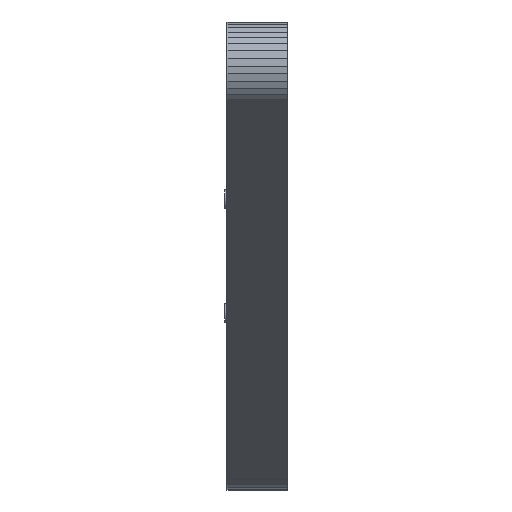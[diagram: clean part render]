
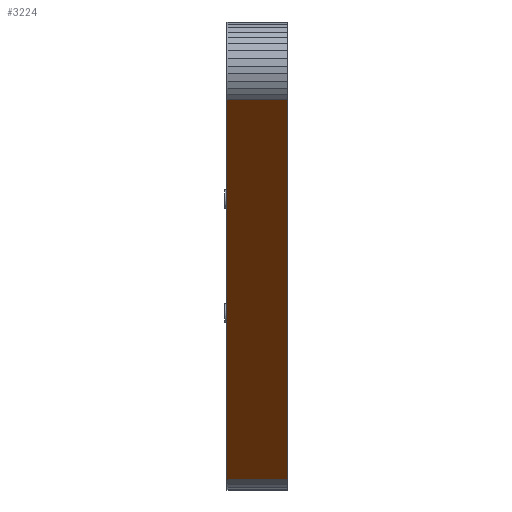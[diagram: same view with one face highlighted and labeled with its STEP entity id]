
A CAD part, top view. The second image highlights one B-rep face of the part: STEP entity #3224.
In plain terms, the highlighted planar face has unit normal (0, -0.796, 0.605).
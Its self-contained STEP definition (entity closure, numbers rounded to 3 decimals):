
#72 = PLANE('',#73);
#73 = AXIS2_PLACEMENT_3D('',#74,#75,#76);
#74 = CARTESIAN_POINT('',(78.,133.337,-4.5));
#75 = DIRECTION('',(1.,0.,0.));
#76 = DIRECTION('',(-0.,0.,1.));
#126 = PLANE('',#127);
#127 = AXIS2_PLACEMENT_3D('',#128,#129,#130);
#128 = CARTESIAN_POINT('',(52.,133.337,-4.5));
#129 = DIRECTION('',(1.,0.,0.));
#130 = DIRECTION('',(-0.,0.,1.));
#1131 = VERTEX_POINT('',#1132);
#1132 = CARTESIAN_POINT('',(52.,200.445,115.213));
#1146 = PLANE('',#1147);
#1147 = AXIS2_PLACEMENT_3D('',#1148,#1149,#1150);
#1148 = CARTESIAN_POINT('',(52.,202.787,117.555));
#1149 = DIRECTION('',(0.,0.707,-0.707));
#1150 = DIRECTION('',(0.,-0.707,-0.707));
#1158 = EDGE_CURVE('',#1131,#1159,#1161,.T.);
#1159 = VERTEX_POINT('',#1160);
#1160 = CARTESIAN_POINT('',(52.,37.12,-99.787));
#1161 = SURFACE_CURVE('',#1162,(#1166,#1173),.PCURVE_S1.);
#1162 = LINE('',#1163,#1164);
#1163 = CARTESIAN_POINT('',(52.,200.445,115.213));
#1164 = VECTOR('',#1165,1.);
#1165 = DIRECTION('',(0.,-0.605,-0.796));
#1166 = PCURVE('',#126,#1167);
#1167 = DEFINITIONAL_REPRESENTATION('',(#1168),#1172);
#1168 = LINE('',#1169,#1170);
#1169 = CARTESIAN_POINT('',(119.713,-67.108));
#1170 = VECTOR('',#1171,1.);
#1171 = DIRECTION('',(-0.796,0.605));
#1172 = ( GEOMETRIC_REPRESENTATION_CONTEXT(2) 
PARAMETRIC_REPRESENTATION_CONTEXT() REPRESENTATION_CONTEXT('2D SPACE',''
  ) );
#1173 = PCURVE('',#1174,#1179);
#1174 = PLANE('',#1175);
#1175 = AXIS2_PLACEMENT_3D('',#1176,#1177,#1178);
#1176 = CARTESIAN_POINT('',(52.,200.445,115.213));
#1177 = DIRECTION('',(0.,0.796,-0.605));
#1178 = DIRECTION('',(0.,-0.605,-0.796));
#1179 = DEFINITIONAL_REPRESENTATION('',(#1180),#1184);
#1180 = LINE('',#1181,#1182);
#1181 = CARTESIAN_POINT('',(0.,0.));
#1182 = VECTOR('',#1183,1.);
#1183 = DIRECTION('',(1.,0.));
#1184 = ( GEOMETRIC_REPRESENTATION_CONTEXT(2) 
PARAMETRIC_REPRESENTATION_CONTEXT() REPRESENTATION_CONTEXT('2D SPACE',''
  ) );
#1202 = PLANE('',#1203);
#1203 = AXIS2_PLACEMENT_3D('',#1204,#1205,#1206);
#1204 = CARTESIAN_POINT('',(52.,37.12,-99.787));
#1205 = DIRECTION('',(0.,0.819,-0.573));
#1206 = DIRECTION('',(0.,-0.573,-0.819));
#2950 = VERTEX_POINT('',#2951);
#2951 = CARTESIAN_POINT('',(78.,200.445,115.213));
#2972 = EDGE_CURVE('',#2950,#2973,#2975,.T.);
#2973 = VERTEX_POINT('',#2974);
#2974 = CARTESIAN_POINT('',(78.,37.12,-99.787));
#2975 = SURFACE_CURVE('',#2976,(#2980,#2987),.PCURVE_S1.);
#2976 = LINE('',#2977,#2978);
#2977 = CARTESIAN_POINT('',(78.,200.445,115.213));
#2978 = VECTOR('',#2979,1.);
#2979 = DIRECTION('',(0.,-0.605,-0.796));
#2980 = PCURVE('',#72,#2981);
#2981 = DEFINITIONAL_REPRESENTATION('',(#2982),#2986);
#2982 = LINE('',#2983,#2984);
#2983 = CARTESIAN_POINT('',(119.713,-67.108));
#2984 = VECTOR('',#2985,1.);
#2985 = DIRECTION('',(-0.796,0.605));
#2986 = ( GEOMETRIC_REPRESENTATION_CONTEXT(2) 
PARAMETRIC_REPRESENTATION_CONTEXT() REPRESENTATION_CONTEXT('2D SPACE',''
  ) );
#2987 = PCURVE('',#1174,#2988);
#2988 = DEFINITIONAL_REPRESENTATION('',(#2989),#2993);
#2989 = LINE('',#2990,#2991);
#2990 = CARTESIAN_POINT('',(0.,-26.));
#2991 = VECTOR('',#2992,1.);
#2992 = DIRECTION('',(1.,0.));
#2993 = ( GEOMETRIC_REPRESENTATION_CONTEXT(2) 
PARAMETRIC_REPRESENTATION_CONTEXT() REPRESENTATION_CONTEXT('2D SPACE',''
  ) );
#3174 = EDGE_CURVE('',#1159,#2973,#3175,.T.);
#3175 = SURFACE_CURVE('',#3176,(#3180,#3187),.PCURVE_S1.);
#3176 = LINE('',#3177,#3178);
#3177 = CARTESIAN_POINT('',(52.,37.12,-99.787));
#3178 = VECTOR('',#3179,1.);
#3179 = DIRECTION('',(1.,0.,0.));
#3180 = PCURVE('',#1202,#3181);
#3181 = DEFINITIONAL_REPRESENTATION('',(#3182),#3186);
#3182 = LINE('',#3183,#3184);
#3183 = CARTESIAN_POINT('',(0.,0.));
#3184 = VECTOR('',#3185,1.);
#3185 = DIRECTION('',(0.,-1.));
#3186 = ( GEOMETRIC_REPRESENTATION_CONTEXT(2) 
PARAMETRIC_REPRESENTATION_CONTEXT() REPRESENTATION_CONTEXT('2D SPACE',''
  ) );
#3187 = PCURVE('',#1174,#3188);
#3188 = DEFINITIONAL_REPRESENTATION('',(#3189),#3193);
#3189 = LINE('',#3190,#3191);
#3190 = CARTESIAN_POINT('',(270.,0.));
#3191 = VECTOR('',#3192,1.);
#3192 = DIRECTION('',(0.,-1.));
#3193 = ( GEOMETRIC_REPRESENTATION_CONTEXT(2) 
PARAMETRIC_REPRESENTATION_CONTEXT() REPRESENTATION_CONTEXT('2D SPACE',''
  ) );
#3224 = ADVANCED_FACE('',(#3225),#1174,.F.);
#3225 = FACE_BOUND('',#3226,.F.);
#3226 = EDGE_LOOP('',(#3227,#3248,#3249,#3250));
#3227 = ORIENTED_EDGE('',*,*,#3228,.T.);
#3228 = EDGE_CURVE('',#1131,#2950,#3229,.T.);
#3229 = SURFACE_CURVE('',#3230,(#3234,#3241),.PCURVE_S1.);
#3230 = LINE('',#3231,#3232);
#3231 = CARTESIAN_POINT('',(52.,200.445,115.213));
#3232 = VECTOR('',#3233,1.);
#3233 = DIRECTION('',(1.,0.,0.));
#3234 = PCURVE('',#1174,#3235);
#3235 = DEFINITIONAL_REPRESENTATION('',(#3236),#3240);
#3236 = LINE('',#3237,#3238);
#3237 = CARTESIAN_POINT('',(0.,0.));
#3238 = VECTOR('',#3239,1.);
#3239 = DIRECTION('',(0.,-1.));
#3240 = ( GEOMETRIC_REPRESENTATION_CONTEXT(2) 
PARAMETRIC_REPRESENTATION_CONTEXT() REPRESENTATION_CONTEXT('2D SPACE',''
  ) );
#3241 = PCURVE('',#1146,#3242);
#3242 = DEFINITIONAL_REPRESENTATION('',(#3243),#3247);
#3243 = LINE('',#3244,#3245);
#3244 = CARTESIAN_POINT('',(3.312,0.));
#3245 = VECTOR('',#3246,1.);
#3246 = DIRECTION('',(0.,-1.));
#3247 = ( GEOMETRIC_REPRESENTATION_CONTEXT(2) 
PARAMETRIC_REPRESENTATION_CONTEXT() REPRESENTATION_CONTEXT('2D SPACE',''
  ) );
#3248 = ORIENTED_EDGE('',*,*,#2972,.T.);
#3249 = ORIENTED_EDGE('',*,*,#3174,.F.);
#3250 = ORIENTED_EDGE('',*,*,#1158,.F.);
